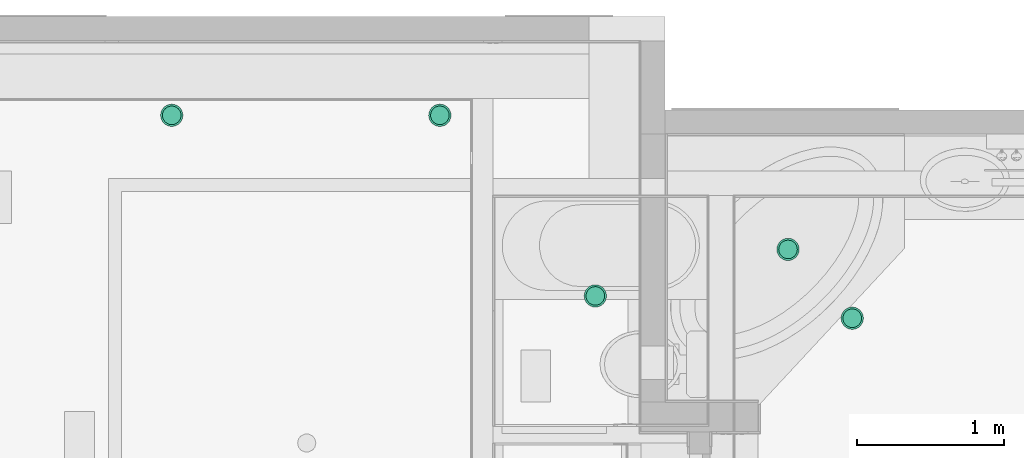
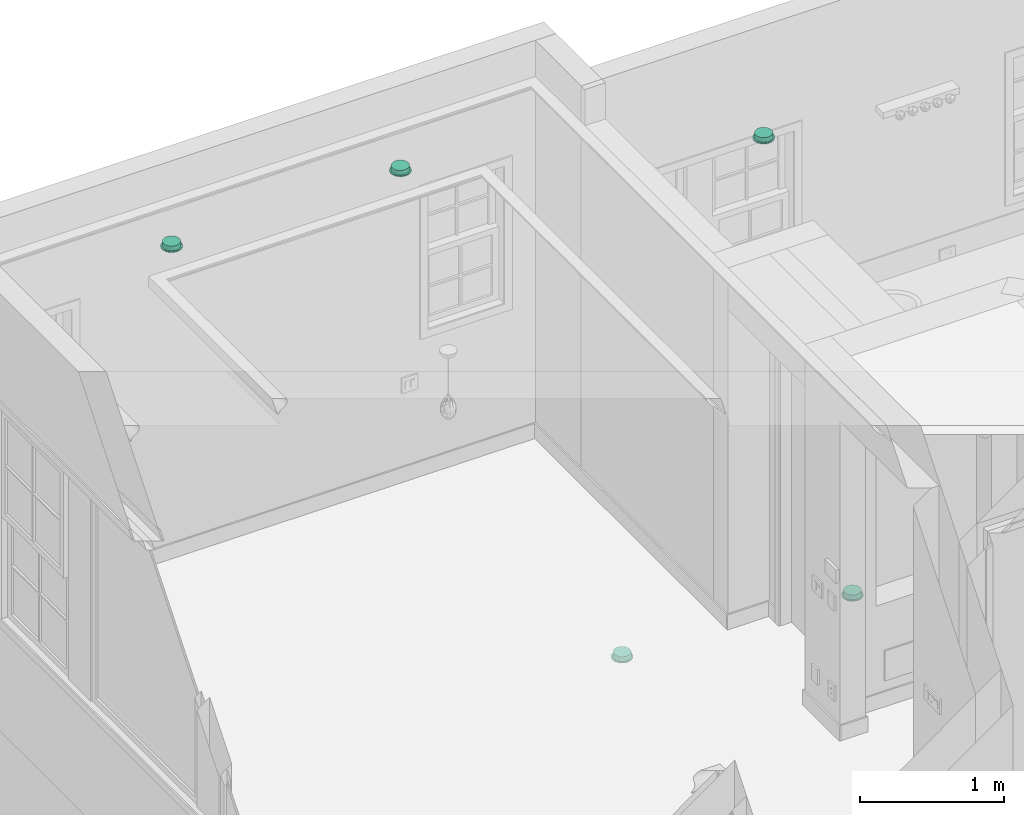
# One storey, part 46 of 81: 5 flow terminals.
"""IFC2X3 building model written with IfcOpenShell, lengths in feet."""

from ifc_helpers import new_model, entity, si_unit, converted_unit, derived_unit, direction, frame, origin, place, context, subcontext, project, spatial, faceted_brep, source, transform, mapped, material, material_list, type_object, type_shapes, element, save


model = new_model("IFC2X3")

# Units and contexts
model_context = context("Model", 3, precision=0.0001, world=origin(), true_north=direction((6.12303176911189e-17, 1.0)))
body_context = subcontext(model_context, "Body", "Model", "MODEL_VIEW")
ifc_project = project(units=[converted_unit("LENGTHUNIT", "FOOT", entity("IfcRatioMeasure", 0.3048), si_unit("LENGTHUNIT", "METRE"), dimensions=[1, 0, 0, 0, 0, 0, 0]), converted_unit("AREAUNIT", "SQUARE FOOT", entity("IfcRatioMeasure", 0.09290304), si_unit("AREAUNIT", "SQUARE_METRE"), dimensions=[2, 0, 0, 0, 0, 0, 0]), converted_unit("VOLUMEUNIT", "CUBIC FOOT", entity("IfcRatioMeasure", 0.028316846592), si_unit("VOLUMEUNIT", "CUBIC_METRE"), dimensions=[3, 0, 0, 0, 0, 0, 0]), converted_unit("PLANEANGLEUNIT", "DEGREE", entity("IfcRatioMeasure", 0.0174532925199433), si_unit("PLANEANGLEUNIT", "RADIAN"), dimensions=[0, 0, 0, 0, 0, 0, 0]), si_unit("MASSUNIT", "GRAM", prefix="KILO"), derived_unit("MASSDENSITYUNIT", [(si_unit("MASSUNIT", "GRAM", prefix="KILO"), 1), (si_unit("LENGTHUNIT", "METRE"), -3)]), derived_unit("MOMENTOFINERTIAUNIT", [(si_unit("LENGTHUNIT", "METRE"), 4)]), si_unit("TIMEUNIT", "SECOND"), si_unit("FREQUENCYUNIT", "HERTZ"), si_unit("THERMODYNAMICTEMPERATUREUNIT", "DEGREE_CELSIUS"), derived_unit("THERMALTRANSMITTANCEUNIT", [(si_unit("MASSUNIT", "GRAM", prefix="KILO"), 1), (si_unit("THERMODYNAMICTEMPERATUREUNIT", "KELVIN"), -1), (si_unit("TIMEUNIT", "SECOND"), -3)]), derived_unit("VOLUMETRICFLOWRATEUNIT", [(si_unit("LENGTHUNIT", "METRE"), 3), (si_unit("TIMEUNIT", "SECOND"), -1)]), si_unit("ELECTRICCURRENTUNIT", "AMPERE"), si_unit("ELECTRICVOLTAGEUNIT", "VOLT"), si_unit("POWERUNIT", "WATT"), si_unit("FORCEUNIT", "NEWTON"), si_unit("ILLUMINANCEUNIT", "LUX"), si_unit("LUMINOUSFLUXUNIT", "LUMEN"), si_unit("LUMINOUSINTENSITYUNIT", "CANDELA"), derived_unit("USERDEFINED", [(si_unit("MASSUNIT", "GRAM", prefix="KILO"), -1), (si_unit("LENGTHUNIT", "METRE"), -2), (si_unit("TIMEUNIT", "SECOND"), 3), (si_unit("LUMINOUSFLUXUNIT", "LUMEN"), 1)]), derived_unit("LINEARVELOCITYUNIT", [(si_unit("LENGTHUNIT", "METRE"), 1), (si_unit("TIMEUNIT", "SECOND"), -1)]), si_unit("PRESSUREUNIT", "PASCAL"), derived_unit("USERDEFINED", [(si_unit("LENGTHUNIT", "METRE"), -2), (si_unit("MASSUNIT", "GRAM", prefix="KILO"), 1), (si_unit("TIMEUNIT", "SECOND"), -2)]), derived_unit("LINEARFORCEUNIT", [(si_unit("MASSUNIT", "GRAM", prefix="KILO"), 1), (si_unit("LENGTHUNIT", "METRE"), 1), (si_unit("TIMEUNIT", "SECOND"), -2), (si_unit("LENGTHUNIT", "METRE"), -1)]), derived_unit("PLANARFORCEUNIT", [(si_unit("MASSUNIT", "GRAM", prefix="KILO"), 1), (si_unit("LENGTHUNIT", "METRE"), 1), (si_unit("TIMEUNIT", "SECOND"), -2), (si_unit("LENGTHUNIT", "METRE"), -2)])], contexts=[model_context])

# Site, building, storey
site_placement = place(None, origin())
site = spatial("IfcSite", under=ifc_project, at=site_placement, Name="Default", CompositionType="ELEMENT")
building_placement = place(site_placement, origin())
building = spatial("IfcBuilding", under=site, at=building_placement, CompositionType="ELEMENT")
storey_placement = place(building_placement, origin())
storey = spatial("IfcBuildingStorey", under=building, at=storey_placement, Name="First floor", CompositionType="ELEMENT", Elevation=0.0)

# Flow terminals
ifc_material_1 = material(Name="Default New Material")
ifc_material_2 = material(Name="Glass, White, High Luminance")
ifc_material_list_1 = material_list([ifc_material_1, ifc_material_2])
ifc_material_list_2 = material_list([ifc_material_1, ifc_material_2])
light_fixture_type = type_object("IfcLightFixtureType", Name="M_Recessed Lamp - Round - LED:Light 2", PredefinedType="NOTDEFINED", material=ifc_material_list_2)
shared_shape = source(origin(), body_context, "Body", "Brep", [
    faceted_brep([(-0.124999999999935, 0.216506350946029, 0.0208333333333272), (-0.176776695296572, 0.176776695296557, 0.0208333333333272), (-0.0833333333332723, 0.144337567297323, 0.0208333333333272), (-0.0431365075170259, 0.160987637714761, 0.0208333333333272), (-0.0647047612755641, 0.241481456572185, 0.0208333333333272), (-0.117851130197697, 0.117851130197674, 0.0208333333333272), (-0.216506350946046, 0.12499999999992, 0.0208333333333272), (-0.144337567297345, 0.0833333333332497, 0.0208333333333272), (-0.160987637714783, 0.0431365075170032, 0.0208333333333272), (-0.241481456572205, 0.0647047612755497, 0.0208333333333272), (-0.166666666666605, 0.0, 0.0208333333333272), (-0.249999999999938, 0.0, 0.0208333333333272), (-0.160987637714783, -0.0431365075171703, 0.0208333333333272), (-0.241481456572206, -0.0647047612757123, 0.0208333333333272), (-0.144337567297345, -0.0833333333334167, 0.0208333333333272), (-0.216506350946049, -0.125000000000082, 0.0208333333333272), (-0.117851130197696, -0.117851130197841, 0.0208333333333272), (-0.176776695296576, -0.176776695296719, 0.0208333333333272), (-0.0833333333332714, -0.14433756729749, 0.0208333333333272), (-0.12499999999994, -0.216506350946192, 0.0208333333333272), (-0.0431365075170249, -0.160987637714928, 0.0208333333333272), (-0.0647047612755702, -0.24148145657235, 0.0208333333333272), (0.0, -0.16666666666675, 0.0208333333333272), (0.0, -0.250000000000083, 0.0208333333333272), (0.0431365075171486, -0.160987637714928, 0.0208333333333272), (0.0647047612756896, -0.241481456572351, 0.0208333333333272), (0.0833333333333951, -0.144337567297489, 0.0208333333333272), (0.12500000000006, -0.216506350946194, 0.0208333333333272), (0.11785113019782, -0.117851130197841, 0.0208333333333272), (0.176776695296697, -0.176776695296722, 0.0208333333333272), (0.144337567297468, -0.0833333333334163, 0.0208333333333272), (0.21650635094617, -0.125000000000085, 0.0208333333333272), (0.241481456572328, -0.0647047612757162, 0.0208333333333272), (0.160987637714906, -0.0431365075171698, 0.0208333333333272), (0.250000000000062, 0.0, 0.0208333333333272), (0.166666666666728, 0.0, 0.0208333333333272), (0.241481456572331, 0.06470476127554, 0.0208333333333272), (0.160987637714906, 0.0431365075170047, 0.0208333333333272), (0.216506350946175, 0.124999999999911, 0.0208333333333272), (0.144337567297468, 0.0833333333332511, 0.0208333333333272), (0.176776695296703, 0.176776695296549, 0.0208333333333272), (0.117851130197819, 0.117851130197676, 0.0208333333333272), (0.125000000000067, 0.216506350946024, 0.0208333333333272), (0.0833333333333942, 0.144337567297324, 0.0208333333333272), (0.0647047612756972, 0.241481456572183, 0.0208333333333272), (0.0431365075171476, 0.160987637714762, 0.0208333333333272), (0.0, 0.249999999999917, 0.0208333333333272), (0.0, 0.166666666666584, 0.0208333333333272), (-0.12499999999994, -0.216506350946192, 0.0), (-0.176776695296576, -0.176776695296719, 0.0), (-0.0833333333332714, -0.14433756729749, 0.0), (-0.0431365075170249, -0.160987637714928, 0.0), (-0.0647047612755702, -0.24148145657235, 0.0), (-0.117851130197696, -0.117851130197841, 0.0), (-0.216506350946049, -0.125000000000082, 0.0), (-0.144337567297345, -0.0833333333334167, 0.0), (-0.160987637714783, -0.0431365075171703, 0.0), (-0.241481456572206, -0.0647047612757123, 0.0), (-0.166666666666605, 0.0, 0.0), (-0.249999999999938, 0.0, 0.0), (-0.160987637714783, 0.0431365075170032, 0.0), (-0.241481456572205, 0.0647047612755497, 0.0), (-0.144337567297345, 0.0833333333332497, 0.0), (-0.216506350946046, 0.12499999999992, 0.0), (-0.117851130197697, 0.117851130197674, 0.0), (-0.176776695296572, 0.176776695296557, 0.0), (-0.0833333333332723, 0.144337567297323, 0.0), (-0.124999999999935, 0.216506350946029, 0.0), (-0.0431365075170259, 0.160987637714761, 0.0), (-0.0647047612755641, 0.241481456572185, 0.0), (0.0, 0.166666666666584, 0.0), (0.0, 0.249999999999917, 0.0), (0.0431365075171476, 0.160987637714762, 0.0), (0.0647047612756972, 0.241481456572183, 0.0), (0.0833333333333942, 0.144337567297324, 0.0), (0.125000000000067, 0.216506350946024, 0.0), (0.117851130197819, 0.117851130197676, 0.0), (0.176776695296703, 0.176776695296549, 0.0), (0.144337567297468, 0.0833333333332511, 0.0), (0.216506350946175, 0.124999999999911, 0.0), (0.241481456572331, 0.06470476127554, 0.0), (0.160987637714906, 0.0431365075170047, 0.0), (0.250000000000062, 0.0, 0.0), (0.166666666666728, 0.0, 0.0), (0.241481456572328, -0.0647047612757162, 0.0), (0.160987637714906, -0.0431365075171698, 0.0), (0.21650635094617, -0.125000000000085, 0.0), (0.144337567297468, -0.0833333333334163, 0.0), (0.176776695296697, -0.176776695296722, 0.0), (0.11785113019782, -0.117851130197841, 0.0), (0.12500000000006, -0.216506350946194, 0.0), (0.0833333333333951, -0.144337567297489, 0.0), (0.0647047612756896, -0.241481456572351, 0.0), (0.0431365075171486, -0.160987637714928, 0.0), (0.0, -0.250000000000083, 0.0), (0.0, -0.16666666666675, 0.0)], [[[0, 1, 2]], [[0, 2, 3]], [[3, 4, 0]], [[2, 1, 5]], [[6, 5, 1]], [[7, 5, 6]], [[8, 7, 6]], [[8, 6, 9]], [[8, 9, 10]], [[10, 9, 11]], [[12, 10, 11]], [[12, 11, 13]], [[14, 12, 13]], [[14, 13, 15]], [[16, 14, 15]], [[15, 17, 16]], [[17, 18, 16]], [[18, 17, 19]], [[18, 19, 20]], [[21, 20, 19]], [[20, 21, 22]], [[22, 21, 23]], [[23, 24, 22]], [[24, 23, 25]], [[24, 25, 26]], [[27, 26, 25]], [[27, 28, 26]], [[27, 29, 28]], [[30, 28, 29]], [[31, 30, 29]], [[32, 30, 31]], [[33, 30, 32]], [[33, 32, 34]], [[34, 35, 33]], [[36, 35, 34]], [[36, 37, 35]], [[37, 36, 38]], [[39, 37, 38]], [[39, 38, 40]], [[39, 40, 41]], [[40, 42, 41]], [[41, 42, 43]], [[43, 42, 44]], [[44, 45, 43]], [[46, 45, 44]], [[4, 47, 46]], [[45, 46, 47]], [[4, 3, 47]], [[48, 49, 50]], [[48, 50, 51]], [[51, 52, 48]], [[50, 49, 53]], [[54, 53, 49]], [[55, 53, 54]], [[56, 55, 54]], [[56, 54, 57]], [[56, 57, 58]], [[58, 57, 59]], [[60, 58, 59]], [[60, 59, 61]], [[62, 60, 61]], [[62, 61, 63]], [[64, 62, 63]], [[63, 65, 64]], [[65, 66, 64]], [[66, 65, 67]], [[66, 67, 68]], [[69, 68, 67]], [[68, 69, 70]], [[70, 69, 71]], [[71, 72, 70]], [[72, 71, 73]], [[72, 73, 74]], [[75, 74, 73]], [[75, 76, 74]], [[75, 77, 76]], [[78, 76, 77]], [[79, 78, 77]], [[80, 78, 79]], [[81, 78, 80]], [[81, 80, 82]], [[82, 83, 81]], [[84, 83, 82]], [[84, 85, 83]], [[85, 84, 86]], [[87, 85, 86]], [[87, 86, 88]], [[87, 88, 89]], [[88, 90, 89]], [[89, 90, 91]], [[91, 90, 92]], [[92, 93, 91]], [[94, 93, 92]], [[52, 95, 94]], [[93, 94, 95]], [[52, 51, 95]], [[10, 58, 60, 8]], [[8, 60, 62, 7]], [[2, 5, 64, 66]], [[62, 64, 5, 7]], [[3, 2, 66, 68]], [[70, 47, 3, 68]], [[45, 72, 74, 43]], [[43, 74, 76, 41]], [[37, 39, 78, 81]], [[76, 78, 39, 41]], [[35, 37, 81, 83]], [[45, 47, 70, 72]], [[35, 83, 85, 33]], [[33, 85, 87, 30]], [[26, 28, 89, 91]], [[87, 89, 28, 30]], [[24, 26, 91, 93]], [[95, 22, 24, 93]], [[20, 51, 50, 18]], [[18, 50, 53, 16]], [[12, 14, 55, 56]], [[53, 55, 14, 16]], [[10, 12, 56, 58]], [[20, 22, 95, 51]], [[57, 13, 11, 59]], [[54, 15, 13, 57]], [[19, 17, 49, 48]], [[54, 49, 17, 15]], [[21, 19, 48, 52]], [[23, 21, 52, 94]], [[92, 25, 23, 94]], [[90, 27, 25, 92]], [[31, 29, 88, 86]], [[90, 88, 29, 27]], [[32, 31, 86, 84]], [[34, 32, 84, 82]], [[80, 36, 34, 82]], [[79, 38, 36, 80]], [[42, 40, 77, 75]], [[79, 77, 40, 38]], [[44, 42, 75, 73]], [[46, 44, 73, 71]], [[69, 4, 46, 71]], [[67, 0, 4, 69]], [[6, 1, 65, 63]], [[67, 65, 1, 0]], [[9, 6, 63, 61]], [[11, 9, 61, 59]]]),
    faceted_brep([(0.0431365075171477, -0.160987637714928, 0.0208333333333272), (0.0833333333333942, -0.14433756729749, 0.0208333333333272), (0.117851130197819, -0.117851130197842, 0.0208333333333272), (0.144337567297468, -0.0833333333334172, 0.0208333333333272), (0.160987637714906, -0.0431365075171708, 0.0208333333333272), (0.166666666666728, 0.0, 0.0208333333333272), (0.160987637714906, 0.0431365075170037, 0.0208333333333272), (0.144337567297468, 0.0833333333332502, 0.0208333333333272), (0.11785113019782, 0.117851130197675, 0.0208333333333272), (0.0833333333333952, 0.144337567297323, 0.0208333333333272), (0.0431365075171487, 0.160987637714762, 0.0208333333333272), (0.0, 0.166666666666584, 0.0208333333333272), (-0.0431365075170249, 0.160987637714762, 0.0208333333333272), (-0.0833333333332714, 0.144337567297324, 0.0208333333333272), (-0.117851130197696, 0.117851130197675, 0.0208333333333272), (-0.144337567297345, 0.0833333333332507, 0.0208333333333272), (-0.160987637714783, 0.0431365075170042, 0.0208333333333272), (-0.166666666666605, 0.0, 0.0208333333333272), (-0.160987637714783, -0.0431365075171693, 0.0208333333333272), (-0.144337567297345, -0.0833333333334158, 0.0208333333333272), (-0.117851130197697, -0.117851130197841, 0.0208333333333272), (-0.0833333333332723, -0.144337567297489, 0.0208333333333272), (-0.0431365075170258, -0.160987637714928, 0.0208333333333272), (0.0, -0.16666666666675, 0.0208333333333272), (0.0431365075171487, 0.160987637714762, 0.0), (0.0833333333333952, 0.144337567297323, 0.0), (0.11785113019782, 0.117851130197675, 0.0), (0.144337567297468, 0.0833333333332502, 0.0), (0.160987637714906, 0.0431365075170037, 0.0), (0.166666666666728, 0.0, 0.0), (0.160987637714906, -0.0431365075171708, 0.0), (0.144337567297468, -0.0833333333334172, 0.0), (0.117851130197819, -0.117851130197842, 0.0), (0.0833333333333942, -0.14433756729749, 0.0), (0.0431365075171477, -0.160987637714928, 0.0), (0.0, -0.16666666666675, 0.0), (-0.0431365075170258, -0.160987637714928, 0.0), (-0.0833333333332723, -0.144337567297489, 0.0), (-0.117851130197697, -0.117851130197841, 0.0), (-0.144337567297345, -0.0833333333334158, 0.0), (-0.160987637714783, -0.0431365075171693, 0.0), (-0.166666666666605, 0.0, 0.0), (-0.160987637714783, 0.0431365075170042, 0.0), (-0.144337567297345, 0.0833333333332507, 0.0), (-0.117851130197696, 0.117851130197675, 0.0), (-0.0833333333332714, 0.144337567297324, 0.0), (-0.0431365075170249, 0.160987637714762, 0.0), (0.0, 0.166666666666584, 0.0)], [[[0, 1, 2, 3, 4, 5, 6, 7, 8, 9, 10, 11, 12, 13, 14, 15, 16, 17, 18, 19, 20, 21, 22, 23]], [[24, 25, 26, 27, 28, 29, 30, 31, 32, 33, 34, 35, 36, 37, 38, 39, 40, 41, 42, 43, 44, 45, 46, 47]], [[40, 18, 17, 41]], [[39, 19, 18, 40]], [[21, 20, 38, 37]], [[39, 38, 20, 19]], [[22, 21, 37, 36]], [[23, 22, 36, 35]], [[34, 0, 23, 35]], [[33, 1, 0, 34]], [[3, 2, 32, 31]], [[33, 32, 2, 1]], [[4, 3, 31, 30]], [[5, 4, 30, 29]], [[28, 6, 5, 29]], [[27, 7, 6, 28]], [[9, 8, 26, 25]], [[27, 26, 8, 7]], [[10, 9, 25, 24]], [[11, 10, 24, 47]], [[46, 12, 11, 47]], [[45, 13, 12, 46]], [[15, 14, 44, 43]], [[45, 44, 14, 13]], [[16, 15, 43, 42]], [[17, 16, 42, 41]]]),
    faceted_brep([(0.0, -0.16666666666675, -0.104166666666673), (0.0431365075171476, -0.160987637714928, -0.104166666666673), (0.0833333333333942, -0.14433756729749, -0.104166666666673), (0.117851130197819, -0.117851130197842, -0.104166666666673), (0.144337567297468, -0.0833333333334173, -0.104166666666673), (0.160987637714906, -0.0431365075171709, -0.104166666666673), (0.166666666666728, 0.0, -0.104166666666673), (0.160987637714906, 0.0431365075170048, -0.104166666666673), (0.144337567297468, 0.0833333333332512, -0.104166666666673), (0.117851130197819, 0.117851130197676, -0.104166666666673), (0.0833333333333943, 0.144337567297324, -0.104166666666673), (0.0431365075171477, 0.160987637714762, -0.104166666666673), (0.0, 0.166666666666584, -0.104166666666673), (-0.0431365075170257, 0.160987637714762, -0.104166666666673), (-0.0833333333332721, 0.144337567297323, -0.104166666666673), (-0.117851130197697, 0.117851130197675, -0.104166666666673), (-0.144337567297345, 0.0833333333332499, -0.104166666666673), (-0.160987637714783, 0.0431365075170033, -0.104166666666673), (-0.166666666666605, 0.0, -0.104166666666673), (-0.160987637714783, -0.0431365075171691, -0.104166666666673), (-0.144337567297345, -0.0833333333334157, -0.104166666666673), (-0.117851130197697, -0.11785113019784, -0.104166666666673), (-0.0833333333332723, -0.144337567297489, -0.104166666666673), (-0.0431365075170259, -0.160987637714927, -0.104166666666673), (0.0, 0.20833333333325, -0.125000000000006), (0.0539206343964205, 0.201234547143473, -0.125000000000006), (0.104166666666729, 0.180421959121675, -0.125000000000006), (0.147313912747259, 0.147313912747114, -0.125000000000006), (0.18042195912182, 0.104166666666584, -0.125000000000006), (0.201234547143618, 0.0539206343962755, -0.125000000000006), (0.208333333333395, 0.0, -0.125000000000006), (0.201234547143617, -0.0539206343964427, -0.125000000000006), (0.180421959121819, -0.104166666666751, -0.125000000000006), (0.147313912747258, -0.147313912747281, -0.125000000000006), (0.104166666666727, -0.180421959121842, -0.125000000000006), (0.0539206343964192, -0.201234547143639, -0.125000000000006), (0.0, -0.208333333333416, -0.125000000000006), (-0.0539206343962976, -0.201234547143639, -0.125000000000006), (-0.104166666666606, -0.180421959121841, -0.125000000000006), (-0.147313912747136, -0.14731391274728, -0.125000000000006), (-0.180421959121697, -0.104166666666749, -0.125000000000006), (-0.201234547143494, -0.0539206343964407, -0.125000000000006), (-0.208333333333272, 0.0, -0.125000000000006), (-0.201234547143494, 0.0539206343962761, -0.125000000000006), (-0.180421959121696, 0.104166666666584, -0.125000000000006), (-0.147313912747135, 0.147313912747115, -0.125000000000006), (-0.104166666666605, 0.180421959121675, -0.125000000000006), (-0.0539206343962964, 0.201234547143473, -0.125000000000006), (-0.201234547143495, -0.0539206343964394, -0.104166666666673), (-0.201234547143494, -0.0539206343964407, 0.0), (-0.208333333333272, 0.0, 0.0), (-0.208333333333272, 0.0, -0.104166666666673), (-0.180421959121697, -0.104166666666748, -0.104166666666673), (-0.180421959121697, -0.104166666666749, 0.0), (-0.104166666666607, -0.18042195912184, -0.104166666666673), (-0.104166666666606, -0.180421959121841, 0.0), (-0.147313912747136, -0.14731391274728, 0.0), (-0.147313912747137, -0.147313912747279, -0.104166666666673), (-0.0539206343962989, -0.201234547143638, -0.104166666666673), (-0.0539206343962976, -0.201234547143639, 0.0), (0.0, -0.208333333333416, -0.104166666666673), (0.0, -0.208333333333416, 0.0), (0.053920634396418, -0.201234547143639, -0.104166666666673), (0.0539206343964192, -0.201234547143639, 0.0), (0.104166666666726, -0.180421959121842, -0.104166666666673), (0.104166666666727, -0.180421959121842, 0.0), (0.180421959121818, -0.104166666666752, -0.104166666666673), (0.180421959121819, -0.104166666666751, 0.0), (0.147313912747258, -0.147313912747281, 0.0), (0.147313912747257, -0.147313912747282, -0.104166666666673), (0.201234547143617, -0.0539206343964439, -0.104166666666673), (0.201234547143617, -0.0539206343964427, 0.0), (0.208333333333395, 0.0, -0.104166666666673), (0.208333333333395, 0.0, 0.0), (0.201234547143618, 0.0539206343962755, -0.104166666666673), (0.201234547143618, 0.0539206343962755, 0.0), (0.18042195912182, 0.104166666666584, -0.104166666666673), (0.18042195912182, 0.104166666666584, 0.0), (0.104166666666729, 0.180421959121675, -0.104166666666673), (0.104166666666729, 0.180421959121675, 0.0), (0.147313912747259, 0.147313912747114, 0.0), (0.147313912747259, 0.147313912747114, -0.104166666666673), (0.0539206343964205, 0.201234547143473, -0.104166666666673), (0.0539206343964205, 0.201234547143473, 0.0), (0.0, 0.20833333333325, -0.104166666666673), (0.0, 0.20833333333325, 0.0), (-0.0539206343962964, 0.201234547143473, -0.104166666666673), (-0.0539206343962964, 0.201234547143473, 0.0), (-0.104166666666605, 0.180421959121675, -0.104166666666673), (-0.104166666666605, 0.180421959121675, 0.0), (-0.180421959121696, 0.104166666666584, -0.104166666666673), (-0.180421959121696, 0.104166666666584, 0.0), (-0.147313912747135, 0.147313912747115, 0.0), (-0.147313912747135, 0.147313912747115, -0.104166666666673), (-0.201234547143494, 0.0539206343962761, -0.104166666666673), (-0.201234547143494, 0.0539206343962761, 0.0), (-0.0833333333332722, 0.144337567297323, 0.0), (-0.0431365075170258, 0.160987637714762, 0.0), (-0.117851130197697, 0.117851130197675, 0.0), (-0.144337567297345, 0.0833333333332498, 0.0), (-0.160987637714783, 0.0431365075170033, 0.0), (-0.166666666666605, 0.0, 0.0), (-0.160987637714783, -0.0431365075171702, 0.0), (-0.144337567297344, -0.0833333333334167, 0.0), (-0.117851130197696, -0.117851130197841, 0.0), (-0.0833333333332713, -0.14433756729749, 0.0), (-0.0431365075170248, -0.160987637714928, 0.0), (0.0, -0.16666666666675, 0.0), (0.0431365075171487, -0.160987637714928, 0.0), (0.0833333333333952, -0.144337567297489, 0.0), (0.11785113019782, -0.117851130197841, 0.0), (0.144337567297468, -0.0833333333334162, 0.0), (0.160987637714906, -0.0431365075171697, 0.0), (0.166666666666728, 0.0, 0.0), (0.160987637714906, 0.0431365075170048, 0.0), (0.144337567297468, 0.0833333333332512, 0.0), (0.117851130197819, 0.117851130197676, 0.0), (0.0833333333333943, 0.144337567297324, 0.0), (0.0431365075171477, 0.160987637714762, 0.0), (0.0, 0.166666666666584, 0.0)], [[[0, 1, 2, 3, 4, 5, 6, 7, 8, 9, 10, 11, 12, 13, 14, 15, 16, 17, 18, 19, 20, 21, 22, 23]], [[24, 25, 26, 27, 28, 29, 30, 31, 32, 33, 34, 35, 36, 37, 38, 39, 40, 41, 42, 43, 44, 45, 46, 47]], [[41, 48, 49, 50, 51, 42]], [[40, 52, 53, 49, 48, 41]], [[54, 55, 56, 57, 39, 38]], [[40, 39, 57, 56, 53, 52]], [[58, 59, 55, 54, 38, 37]], [[60, 61, 59, 58, 37, 36]], [[35, 62, 63, 61, 60, 36]], [[34, 64, 65, 63, 62, 35]], [[66, 67, 68, 69, 33, 32]], [[34, 33, 69, 68, 65, 64]], [[70, 71, 67, 66, 32, 31]], [[72, 73, 71, 70, 31, 30]], [[29, 74, 75, 73, 72, 30]], [[28, 76, 77, 75, 74, 29]], [[78, 79, 80, 81, 27, 26]], [[28, 27, 81, 80, 77, 76]], [[82, 83, 79, 78, 26, 25]], [[84, 85, 83, 82, 25, 24]], [[47, 86, 87, 85, 84, 24]], [[46, 88, 89, 87, 86, 47]], [[90, 91, 92, 93, 45, 44]], [[46, 45, 93, 92, 89, 88]], [[94, 95, 91, 90, 44, 43]], [[51, 50, 95, 94, 43, 42]], [[89, 92, 96]], [[89, 96, 97]], [[97, 87, 89]], [[96, 92, 98]], [[91, 98, 92]], [[99, 98, 91]], [[100, 99, 91]], [[100, 91, 95]], [[100, 95, 101]], [[101, 95, 50]], [[102, 101, 50]], [[102, 50, 49]], [[103, 102, 49]], [[103, 49, 53]], [[104, 103, 53]], [[53, 56, 104]], [[56, 105, 104]], [[105, 56, 55]], [[105, 55, 106]], [[59, 106, 55]], [[106, 59, 107]], [[107, 59, 61]], [[61, 108, 107]], [[108, 61, 63]], [[108, 63, 109]], [[65, 109, 63]], [[65, 110, 109]], [[65, 68, 110]], [[111, 110, 68]], [[67, 111, 68]], [[71, 111, 67]], [[112, 111, 71]], [[112, 71, 73]], [[73, 113, 112]], [[75, 113, 73]], [[75, 114, 113]], [[114, 75, 77]], [[115, 114, 77]], [[115, 77, 80]], [[115, 80, 116]], [[80, 79, 116]], [[116, 79, 117]], [[117, 79, 83]], [[83, 118, 117]], [[85, 118, 83]], [[87, 119, 85]], [[85, 119, 118]], [[87, 97, 119]], [[113, 6, 5, 112]], [[112, 5, 4, 111]], [[109, 110, 3, 2]], [[4, 3, 110, 111]], [[108, 109, 2, 1]], [[0, 107, 108, 1]], [[104, 105, 22, 21]], [[23, 22, 105, 106]], [[102, 103, 20, 19]], [[104, 21, 20, 103]], [[102, 19, 18, 101]], [[0, 23, 106, 107]], [[101, 18, 17, 100]], [[100, 17, 16, 99]], [[96, 98, 15, 14]], [[16, 15, 98, 99]], [[97, 96, 14, 13]], [[12, 119, 97, 13]], [[118, 11, 10, 117]], [[117, 10, 9, 116]], [[114, 115, 8, 7]], [[9, 8, 115, 116]], [[113, 114, 7, 6]], [[118, 119, 12, 11]]]),
])
type_shapes(light_fixture_type, [shared_shape])
flow_terminal_1_placement = place(storey_placement, frame((-1.58333333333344, 43.3749999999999, 8.41666666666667), z_axis=(0.0, 0.0, -1.0), x_axis=(1.0, 0.0, 0.0)))
element("IfcFlowTerminal", 1, at=flow_terminal_1_placement, inside=storey, type_object=light_fixture_type, material=ifc_material_list_1, Name="M_Recessed Lamp - Round - LED:Light 2", ObjectType="M_Recessed Lamp - Round - LED:Light 2", context=body_context, shape_type="MappedRepresentation", body=[
    mapped(shared_shape, transform((0.0, 0.0, 0.0), scale=1.0)),
])
ifc_material_list_3 = material_list([ifc_material_1, ifc_material_2])
flow_terminal_2_placement = place(storey_placement, frame((-7.33333333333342, 43.8749999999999, 8.41666666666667), z_axis=(0.0, 0.0, -1.0), x_axis=(1.0, 0.0, 0.0)))
element("IfcFlowTerminal", 2, at=flow_terminal_2_placement, inside=storey, type_object=light_fixture_type, material=ifc_material_list_3, Name="M_Recessed Lamp - Round - LED:Light 2", ObjectType="M_Recessed Lamp - Round - LED:Light 2", context=body_context, shape_type="MappedRepresentation", body=[
    mapped(shared_shape, transform((0.0, 0.0, 0.0), scale=1.0)),
])
ifc_material_list_4 = material_list([ifc_material_1, ifc_material_2])
flow_terminal_3_placement = place(storey_placement, frame((-16.8125, 47.9166666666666, 20.6666666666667), z_axis=(0.0, 0.0, -1.0), x_axis=(1.0, 0.0, 0.0)))
element("IfcFlowTerminal", 3, at=flow_terminal_3_placement, inside=storey, type_object=light_fixture_type, material=ifc_material_list_4, Name="M_Recessed Lamp - Round - LED:Light 2", ObjectType="M_Recessed Lamp - Round - LED:Light 2", context=body_context, shape_type="MappedRepresentation", body=[
    mapped(shared_shape, transform((0.0, 0.0, 0.0), scale=1.0)),
])
ifc_material_list_5 = material_list([ifc_material_1, ifc_material_2])
flow_terminal_4_placement = place(storey_placement, frame((-10.8125, 47.9166666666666, 20.6666666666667), z_axis=(0.0, 0.0, -1.0), x_axis=(1.0, 0.0, 0.0)))
element("IfcFlowTerminal", 4, at=flow_terminal_4_placement, inside=storey, type_object=light_fixture_type, material=ifc_material_list_5, Name="M_Recessed Lamp - Round - LED:Light 2", ObjectType="M_Recessed Lamp - Round - LED:Light 2", context=body_context, shape_type="MappedRepresentation", body=[
    mapped(shared_shape, transform((0.0, 0.0, 0.0), scale=1.0)),
])
ifc_material_list_6 = material_list([ifc_material_1, ifc_material_2])
flow_terminal_5_placement = place(storey_placement, frame((-3.02083333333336, 44.91632150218, 20.6666666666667), z_axis=(0.0, 0.0, -1.0), x_axis=(1.0, 0.0, 0.0)))
element("IfcFlowTerminal", 5, at=flow_terminal_5_placement, inside=storey, type_object=light_fixture_type, material=ifc_material_list_6, Name="M_Recessed Lamp - Round - LED:Light 2", ObjectType="M_Recessed Lamp - Round - LED:Light 2", context=body_context, shape_type="MappedRepresentation", body=[
    mapped(shared_shape, transform((0.0, 0.0, 0.0), scale=1.0)),
])

save(model, "model.ifc")
